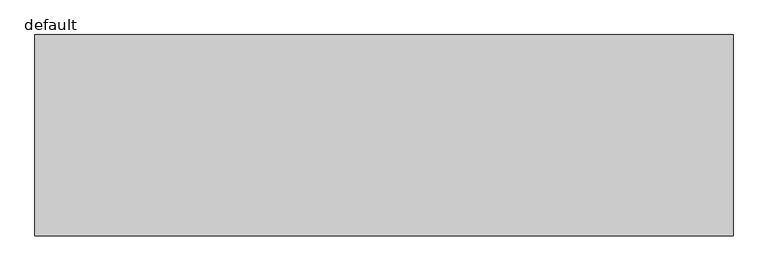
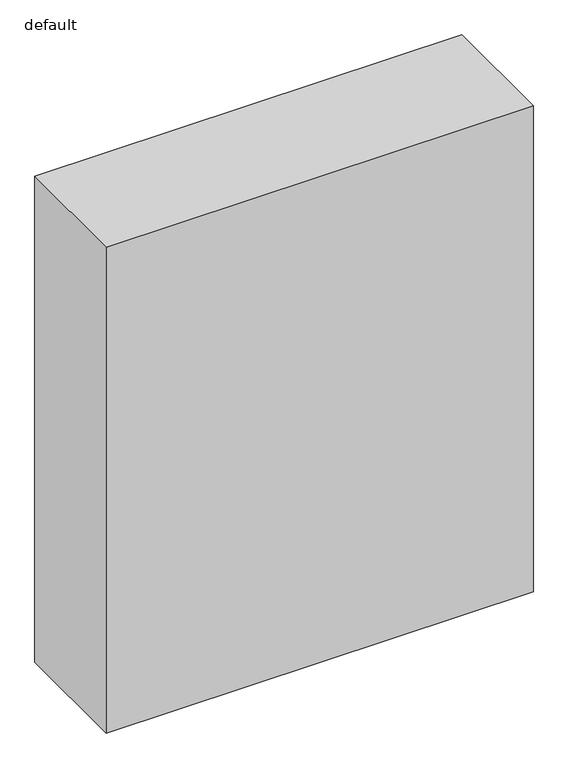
"""IFC4 building model written with IfcOpenShell, lengths in millimetres: furniture geometry, Fu_шкаф встроенный_LEG : default."""

from ifc_helpers import new_model, si_unit, origin, origin_with_axes, place, context, project, spatial, polyline, outline, extrude, source, transform, mapped, element, save


def default_82be41be(model_context):
    return source(origin(), model_context, "Body", "SweptSolid", [
        extrude(outline(polyline([(2080.0, 0.0), (0.0, 0.0), (0.0, 600.0), (2080.0, 600.0), (2080.0, 0.0)])), origin_with_axes(), (0.0, 0.0, 1.0), 2500.0),
    ])


if __name__ == "__main__":
    model = new_model("IFC4")
    model_context = context("Model", 3, world=origin())
    ifc_project = project(units=[si_unit("LENGTHUNIT", "METRE", prefix="MILLI")], contexts=[model_context])
    site = spatial("IfcSite", under=ifc_project)
    building = spatial("IfcBuilding", under=site)
    placement = place(None, origin())
    default_shape = default_82be41be(model_context)
    element("IfcFurniture", 1, ObjectType="Fu_шкаф встроенный_LEG : default", at=placement, inside=building, context=model_context, shape_type="MappedRepresentation", body=[
        mapped(default_shape, transform((0.0, 0.0, 0.0), x_axis=(1.0, 0.0, 0.0), y_axis=(0.0, 1.0, 0.0), z_axis=(0.0, 0.0, 1.0))),
    ])
    save(model, "model.ifc")
